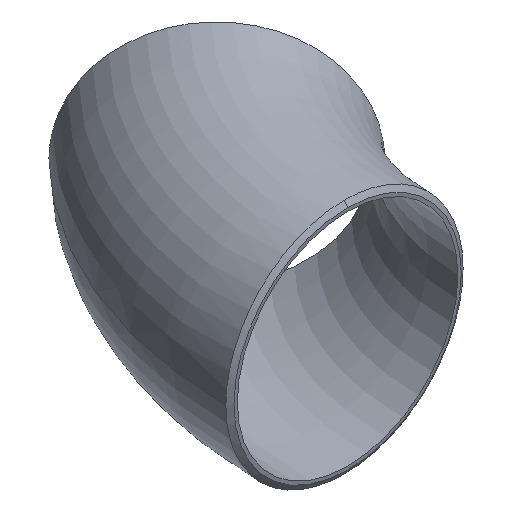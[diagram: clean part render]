
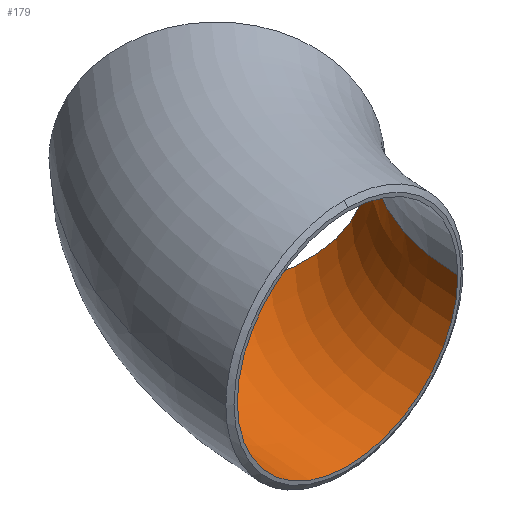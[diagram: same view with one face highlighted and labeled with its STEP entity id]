
A CAD part, isometric view. The second image highlights one B-rep face of the part: STEP entity #179.
In plain terms, the highlighted toroidal (fillet/blend) face has major radius 152.337 mm and minor radius 53.15 mm.
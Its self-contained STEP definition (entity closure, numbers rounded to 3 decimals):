
#2 = AXIS2_PLACEMENT_3D ( 'NONE', #582, #228, #170 ) ;
#7 = VERTEX_POINT ( 'NONE', #115 ) ;
#40 = TOROIDAL_SURFACE ( 'NONE', #2, 152.337, 53.15 ) ;
#53 = ORIENTED_EDGE ( 'NONE', *, *, #280, .F. ) ;
#55 = VERTEX_POINT ( 'NONE', #78 ) ;
#58 = DIRECTION ( 'NONE',  ( 1., 0., 0. ) ) ;
#75 = CIRCLE ( 'NONE', #135, 53.15 ) ;
#78 = CARTESIAN_POINT ( 'NONE',  ( 53.15, 0., 0. ) ) ;
#86 = EDGE_CURVE ( 'NONE', #282, #55, #75, .T. ) ;
#100 = CARTESIAN_POINT ( 'NONE',  ( -53.15, 0., 0. ) ) ;
#110 = CARTESIAN_POINT ( 'NONE',  ( 152.337, 0., 0. ) ) ;
#112 = ORIENTED_EDGE ( 'NONE', *, *, #86, .T. ) ;
#115 = CARTESIAN_POINT ( 'NONE',  ( 7.036, 145.301, 0. ) ) ;
#123 = CIRCLE ( 'NONE', #545, 205.487 ) ;
#135 = AXIS2_PLACEMENT_3D ( 'NONE', #270, #536, #181 ) ;
#170 = DIRECTION ( 'NONE',  ( 1., 0., 0. ) ) ;
#173 = AXIS2_PLACEMENT_3D ( 'NONE', #205, #328, #201 ) ;
#179 = ADVANCED_FACE ( 'NONE', ( #356 ), #40, .F. ) ;
#181 = DIRECTION ( 'NONE',  ( 0., 0., 1. ) ) ;
#201 = DIRECTION ( 'NONE',  ( 0., 0., 1. ) ) ;
#202 = CARTESIAN_POINT ( 'NONE',  ( 82.201, 70.136, 0. ) ) ;
#205 = CARTESIAN_POINT ( 'NONE',  ( 44.618, 107.718, 0. ) ) ;
#206 = DIRECTION ( 'NONE',  ( 0., 0., 1. ) ) ;
#228 = DIRECTION ( 'NONE',  ( 0., 0., 1. ) ) ;
#232 = ORIENTED_EDGE ( 'NONE', *, *, #441, .F. ) ;
#237 = EDGE_CURVE ( 'NONE', #7, #282, #123, .T. ) ;
#254 = EDGE_LOOP ( 'NONE', ( #232, #404, #112, #53 ) ) ;
#270 = CARTESIAN_POINT ( 'NONE',  ( 0., 0., 0. ) ) ;
#279 = VERTEX_POINT ( 'NONE', #202 ) ;
#280 = EDGE_CURVE ( 'NONE', #279, #55, #284, .T. ) ;
#282 = VERTEX_POINT ( 'NONE', #100 ) ;
#284 = CIRCLE ( 'NONE', #509, 99.187 ) ;
#328 = DIRECTION ( 'NONE',  ( -0.707, -0.707, 0. ) ) ;
#356 = FACE_OUTER_BOUND ( 'NONE', #254, .T. ) ;
#376 = CARTESIAN_POINT ( 'NONE',  ( 152.337, 0., 0. ) ) ;
#404 = ORIENTED_EDGE ( 'NONE', *, *, #237, .T. ) ;
#418 = CIRCLE ( 'NONE', #173, 53.15 ) ;
#424 = DIRECTION ( 'NONE',  ( 1., 0., 0. ) ) ;
#441 = EDGE_CURVE ( 'NONE', #7, #279, #418, .T. ) ;
#474 = DIRECTION ( 'NONE',  ( 0., 0., 1. ) ) ;
#509 = AXIS2_PLACEMENT_3D ( 'NONE', #110, #206, #424 ) ;
#536 = DIRECTION ( 'NONE',  ( 0., -1., 0. ) ) ;
#545 = AXIS2_PLACEMENT_3D ( 'NONE', #376, #474, #58 ) ;
#582 = CARTESIAN_POINT ( 'NONE',  ( 152.337, 0., 0. ) ) ;
